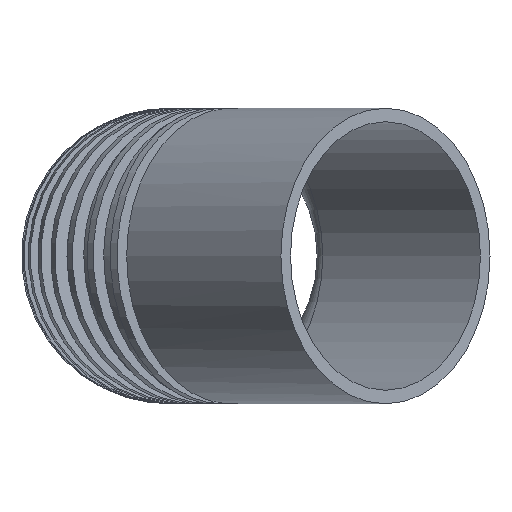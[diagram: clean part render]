
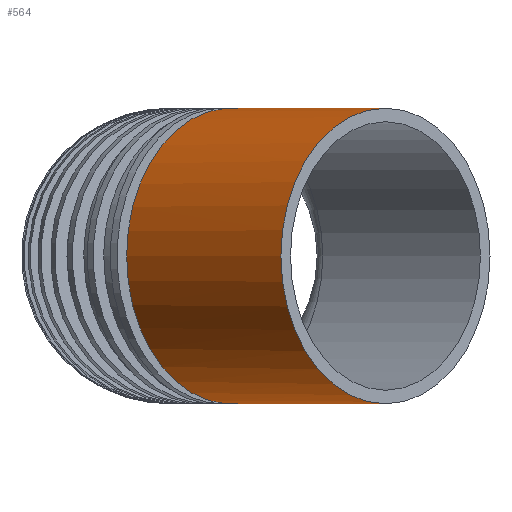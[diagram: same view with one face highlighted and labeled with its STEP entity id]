
A CAD part, front view. The second image highlights one B-rep face of the part: STEP entity #564.
In plain terms, the highlighted cylindrical face has radius 80 mm (diameter 160 mm), a full revolution.
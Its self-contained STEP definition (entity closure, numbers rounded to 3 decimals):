
#34=FACE_BOUND($,#131,.T.);
#85=FACE_OUTER_BOUND($,#130,.T.);
#130=EDGE_LOOP($,(#483,#484,#485,#486));
#131=EDGE_LOOP($,(#487));
#178=CIRCLE($,#572,80.);
#192=CIRCLE($,#606,80.);
#201=CIRCLE($,#624,80.);
#202=LINE($,#761,#206);
#203=LINE($,#765,#207);
#206=VECTOR($,#633,2.573);
#207=VECTOR($,#636,2.573);
#210=VERTEX_POINT($,#759);
#211=VERTEX_POINT($,#760);
#212=VERTEX_POINT($,#762);
#213=VERTEX_POINT($,#764);
#265=VERTEX_POINT($,#1897);
#266=EDGE_CURVE($,#210,#211,#202,.T.);
#268=EDGE_CURVE($,#213,#212,#203,.T.);
#272=EDGE_CURVE($,#212,#210,#178,.T.);
#328=EDGE_CURVE($,#213,#211,#192,.T.);
#339=EDGE_CURVE($,#265,#265,#201,.T.);
#483=ORIENTED_EDGE($,*,*,#266,.T.);
#484=ORIENTED_EDGE($,*,*,#328,.F.);
#485=ORIENTED_EDGE($,*,*,#268,.T.);
#486=ORIENTED_EDGE($,*,*,#272,.T.);
#487=ORIENTED_EDGE($,*,*,#339,.T.);
#499=CYLINDRICAL_SURFACE($,#625,80.);
#564=ADVANCED_FACE($,(#85,#34),#499,.T.);
#572=AXIS2_PLACEMENT_3D($,#782,#641,#642);
#606=AXIS2_PLACEMENT_3D($,#1870,#709,#710);
#624=AXIS2_PLACEMENT_3D($,#1898,#747,#748);
#625=AXIS2_PLACEMENT_3D($,#1899,#749,#750);
#633=DIRECTION($,(-0.707,-0.707,0.));
#636=DIRECTION($,(0.707,0.707,0.));
#641=DIRECTION('center_axis',(0.707,0.707,0.));
#642=DIRECTION('ref_axis',(0.707,-0.707,0.));
#709=DIRECTION('center_axis',(-0.707,-0.707,0.));
#710=DIRECTION('ref_axis',(0.707,-0.707,0.));
#747=DIRECTION('center_axis',(-0.707,-0.707,0.));
#748=DIRECTION('ref_axis',(0.707,-0.707,0.));
#749=DIRECTION('center_axis',(-0.707,-0.707,0.));
#750=DIRECTION('ref_axis',(0.707,-0.707,0.));
#759=CARTESIAN_POINT('',(23.531,78.728,79.916));
#760=CARTESIAN_POINT('',(21.712,76.909,79.916));
#761=CARTESIAN_POINT($,(21.712,76.909,79.916));
#762=CARTESIAN_POINT('',(23.531,78.728,-79.916));
#764=CARTESIAN_POINT('',(21.712,76.909,-79.916));
#765=CARTESIAN_POINT($,(21.712,76.909,-79.916));
#782=CARTESIAN_POINT('Origin',(26.129,76.129,0.));
#1870=CARTESIAN_POINT('Origin',(24.31,74.31,0.));
#1897=CARTESIAN_POINT('',(166.17,103.033,0.));
#1898=CARTESIAN_POINT('Origin',(109.602,159.602,0.));
#1899=CARTESIAN_POINT('Origin',(66.956,116.956,0.));
